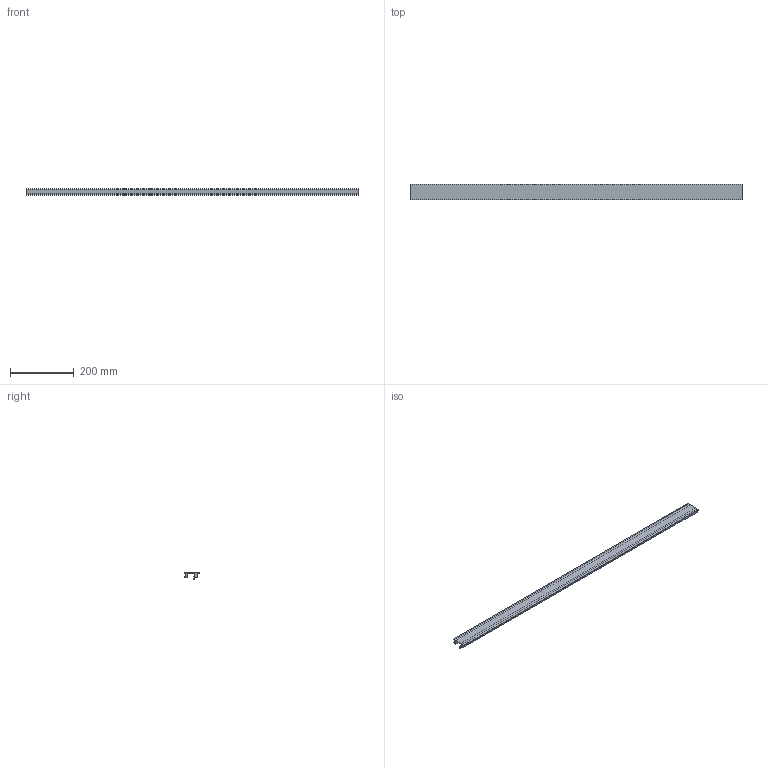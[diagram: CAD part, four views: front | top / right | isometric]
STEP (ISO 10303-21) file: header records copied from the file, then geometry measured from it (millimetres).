
FILE_DESCRIPTION (( 'STEP AP214' ), '1' );
FILE_NAME ('46902747.step', '2022-02-16T15:06:53', ( '' ), ( '' ), 'SwSTEP 2.0', 'SolidWorks 2019', '' );
FILE_SCHEMA (( 'AUTOMOTIVE_DESIGN' ));
Length unit declared in the file: millimetre
Products named in the file (1): 46902747
Bounding box: 1043.2 x 48.05 x 20.4 mm (x, y, z)
Volume: 287605.9 mm3; surface area: 191657.7 mm2
Topology: 1 solids, 1 shells, 26 faces, 72 edges, 48 vertices
Faces by surface type: plane 22, cylinder 4
Entity records: 858 total; most frequent: CARTESIAN_POINT 147, ORIENTED_EDGE 144, DIRECTION 134, EDGE_CURVE 72, LINE 64, VECTOR 64, VERTEX_POINT 48, AXIS2_PLACEMENT_3D 35
